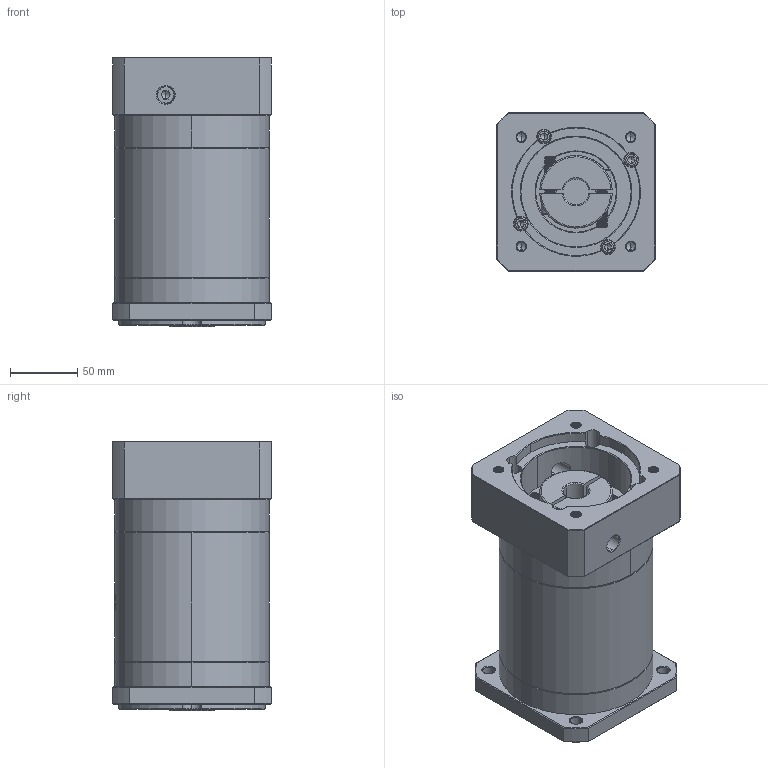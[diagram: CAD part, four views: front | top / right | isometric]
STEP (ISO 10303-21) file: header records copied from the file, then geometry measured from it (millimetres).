
FILE_DESCRIPTION (( 'STEP AP214' ), '1' );
FILE_NAME ('ZF120A-K25-L3-P2-19-95-115-M8.step', '2023-08-27T04:52:49', ( '' ), ( '' ), 'SwSTEP 2.0', 'SolidWorks 2016', '' );
FILE_SCHEMA (( 'AUTOMOTIVE_DESIGN' ));
Length unit declared in the file: millimetre
Products named in the file (1): ZF120A-K25-L3-P2-19-95-115-M8
Bounding box: 118 x 118 x 200.5 mm (x, y, z)
Volume: 2008429.7 mm3; surface area: 184621.7 mm2
Topology: 6 solids, 6 shells, 2186 faces, 5842 edges, 3757 vertices
Faces by surface type: plane 1027, bspline 430, cylinder 396, cone 333
Entity records: 118447 total; most frequent: CARTESIAN_POINT 45108, ORIENTED_EDGE 11628, DIRECTION 8448, EDGE_CURVE 5814, VERTEX_POINT 3757, VECTOR 3054, LINE 3054, AXIS2_PLACEMENT_3D 2697
